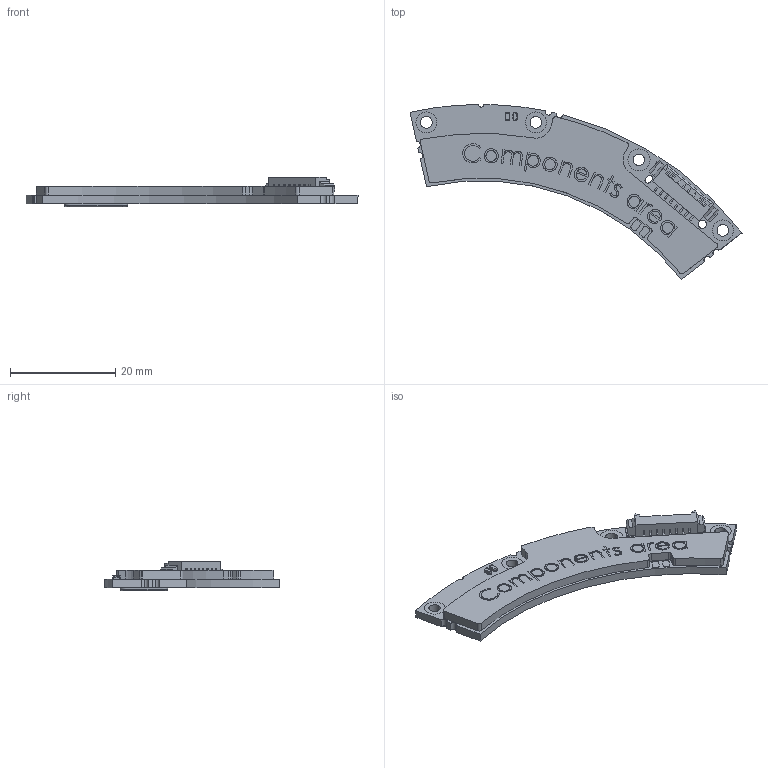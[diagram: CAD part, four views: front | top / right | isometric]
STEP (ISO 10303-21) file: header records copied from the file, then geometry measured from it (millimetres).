
FILE_DESCRIPTION (( 'STEP AP214' ), '1' );
FILE_NAME ('MODK408_TIV_AksIM-4_MC115_pokrovèek_in_napis.STEP', '2023-03-15T12:09:45', ( '' ), ( '' ), 'SwSTEP 2.0', 'SolidWorks 2020', '' );
FILE_SCHEMA (( 'AUTOMOTIVE_DESIGN' ));
Length unit declared in the file: millimetre
Products named in the file (1): MODK408_TIV_AksIM-4_MC115_pokrovèek_in_napis
Bounding box: 63.11 x 33.28 x 5.7 mm (x, y, z)
Volume: 2533.4 mm3; surface area: 3048 mm2
Topology: 7 solids, 7 shells, 741 faces, 2073 edges, 1388 vertices
Faces by surface type: plane 503, bspline 138, cylinder 96, torus 4
Entity records: 38486 total; most frequent: CARTESIAN_POINT 12091, ORIENTED_EDGE 4146, DIRECTION 3057, EDGE_CURVE 2073, VECTOR 1509, LINE 1509, VERTEX_POINT 1388, EDGE_LOOP 813
